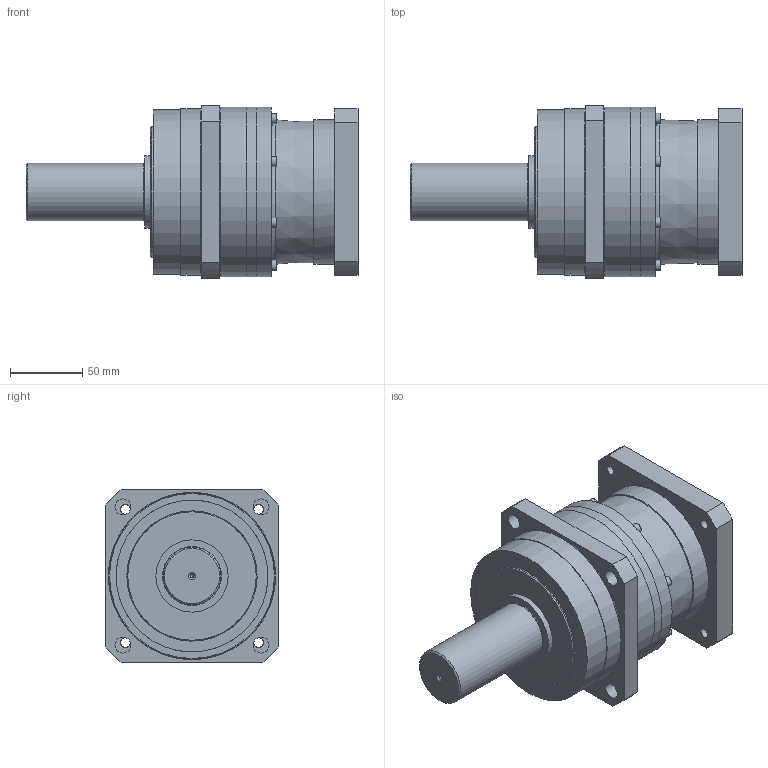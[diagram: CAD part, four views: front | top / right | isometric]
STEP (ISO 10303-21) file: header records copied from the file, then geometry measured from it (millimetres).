
FILE_DESCRIPTION(/* description */ ('ANFX-P130N-2-Z50G'),/* implementation_level */ '2;1');
FILE_NAME(/* name */ 'C:\Users\ADMINI~1\AppData\Local\Temp\MM579588_ANFX-P130N-2-Z50G.stp',/* time_stamp */ '2018-06-20T10:15:41+02:00',/* author */ ('Max'),/* organization */ (''),/* preprocessor_version */ 'ST-DEVELOPER v17',/* originating_system */ 'Autodesk Inventor 2018',/* authorisation */ '');
FILE_SCHEMA (('AUTOMOTIVE_DESIGN { 1 0 10303 214 3 1 1 }'));
Length unit declared in the file: millimetre
Products named in the file (17): MM579206; MMBG0004078; MMCL445LG; MMCM226LG; MAX4841G; MAW8388G; MMBG0004105; MMCH509LG; 5006008RS---G; 009M004R025NG; M530A406212--G; MMAQ1008G; 213742; MMAP3262G; 133629; 204174; MAW8794G
Assembly tree (30 placements, depth 3):
  MM579206
    MMBG0004078
      MMCL445LG
      MMCM226LG
      MAX4841G
      MAW8388G
    MMBG0004105
      MMCH509LG
      5006008RS---G
      009M004R025NG  x8
      M530A406212--G
      MMAQ1008G
      213742
      MMAP3262G
    133629
    204174  x8
    MAW8794G
Bounding box: 229.5 x 120 x 120 mm (x, y, z)
Volume: 1037623.6 mm3; surface area: 293428.9 mm2
Topology: 87 solids, 88 shells, 605 faces, 1692 edges, 1215 vertices
Faces by surface type: plane 251, cylinder 185, cone 68, sphere 58, torus 43
Full cylindrical faces by diameter (mm): 2.5 x1, 3.242 x12, 4 x9, 4.5 x16, 4.917 x9, 6 x9, 6.6 x9, 6.647 x4, 7 x8, 10 x9, 11 x12, 15 x1, 15.2 x1, 15.6 x1, 18 x1, 24.5 x1, 28 x2, 38 x1, 39.4 x1, 39.6 x1, 40 x3, 42 x2, 45 x1, 45.28 x1, 49.2 x4, 50 x1, 57.6 x1, 59.5 x2, 62 x3, 62.5 x2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
Entity records: 14592 total; most frequent: DIRECTION 2639, CARTESIAN_POINT 2637, ORIENTED_EDGE 2076, AXIS2_PLACEMENT_3D 1182, EDGE_CURVE 1038, VERTEX_POINT 851, CIRCLE 726, EDGE_LOOP 581
